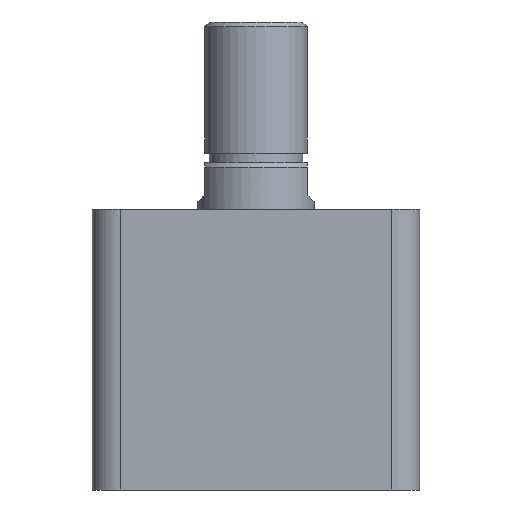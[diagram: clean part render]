
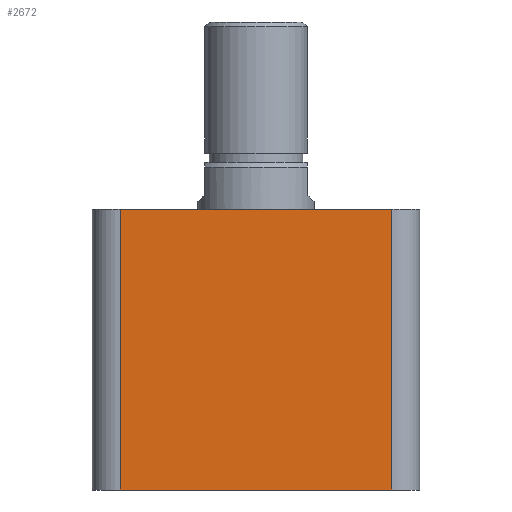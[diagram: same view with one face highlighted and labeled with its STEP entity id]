
A CAD part, front view. The second image highlights one B-rep face of the part: STEP entity #2672.
In plain terms, the highlighted planar face has unit normal (0, -1, 0).
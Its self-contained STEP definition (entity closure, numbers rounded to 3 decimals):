
#46 = ORIENTED_EDGE ( 'NONE', *, *, #2129, .F. ) ;
#99 = ORIENTED_EDGE ( 'NONE', *, *, #2130, .T. ) ;
#129 = ORIENTED_EDGE ( 'NONE', *, *, #2134, .T. ) ;
#249 = ORIENTED_EDGE ( 'NONE', *, *, #2133, .T. ) ;
#690 = EDGE_LOOP ( 'NONE', ( #46, #99, #249, #129 ) ) ;
#745 = VERTEX_POINT ( 'NONE', #1829 ) ;
#771 = VERTEX_POINT ( 'NONE', #1980 ) ;
#813 = VERTEX_POINT ( 'NONE', #1938 ) ;
#859 = VERTEX_POINT ( 'NONE', #1892 ) ;
#972 = DIRECTION ( 'NONE',  ( 0., 0., 1. ) ) ;
#973 = DIRECTION ( 'NONE',  ( 0., 1., 0. ) ) ;
#975 = PLANE ( 'NONE',  #1329 ) ;
#986 = CARTESIAN_POINT ( 'NONE',  ( -35., -35., 60. ) ) ;
#1173 = DIRECTION ( 'NONE',  ( 0., 0., 1. ) ) ;
#1175 = CARTESIAN_POINT ( 'NONE',  ( 29., -35., 60. ) ) ;
#1184 = DIRECTION ( 'NONE',  ( 1., 0., 0. ) ) ;
#1185 = CARTESIAN_POINT ( 'NONE',  ( -35., -35., 0. ) ) ;
#1187 = DIRECTION ( 'NONE',  ( 0., 0., -1. ) ) ;
#1192 = CARTESIAN_POINT ( 'NONE',  ( -29., -35., 60. ) ) ;
#1193 = DIRECTION ( 'NONE',  ( 1., 0., 0. ) ) ;
#1194 = CARTESIAN_POINT ( 'NONE',  ( -35., -35., 60. ) ) ;
#1329 = AXIS2_PLACEMENT_3D ( 'NONE', #986, #973, #972 ) ;
#1514 = FACE_OUTER_BOUND ( 'NONE', #690, .T. ) ;
#1587 = VECTOR ( 'NONE', #1173, 1000. ) ;
#1589 = VECTOR ( 'NONE', #1184, 1000. ) ;
#1590 = LINE ( 'NONE', #1175, #1587 ) ;
#1591 = LINE ( 'NONE', #1185, #1589 ) ;
#1593 = VECTOR ( 'NONE', #1187, 1000. ) ;
#1595 = VECTOR ( 'NONE', #1193, 1000. ) ;
#1596 = LINE ( 'NONE', #1192, #1593 ) ;
#1598 = LINE ( 'NONE', #1194, #1595 ) ;
#1829 = CARTESIAN_POINT ( 'NONE',  ( 29., -35., 0. ) ) ;
#1892 = CARTESIAN_POINT ( 'NONE',  ( 29., -35., 60. ) ) ;
#1938 = CARTESIAN_POINT ( 'NONE',  ( -29., -35., 60. ) ) ;
#1980 = CARTESIAN_POINT ( 'NONE',  ( -29., -35., 0. ) ) ;
#2129 = EDGE_CURVE ( 'NONE', #813, #859, #1598, .T. ) ;
#2130 = EDGE_CURVE ( 'NONE', #813, #771, #1596, .T. ) ;
#2133 = EDGE_CURVE ( 'NONE', #771, #745, #1591, .T. ) ;
#2134 = EDGE_CURVE ( 'NONE', #745, #859, #1590, .T. ) ;
#2672 = ADVANCED_FACE ( 'NONE', ( #1514 ), #975, .F. ) ;
